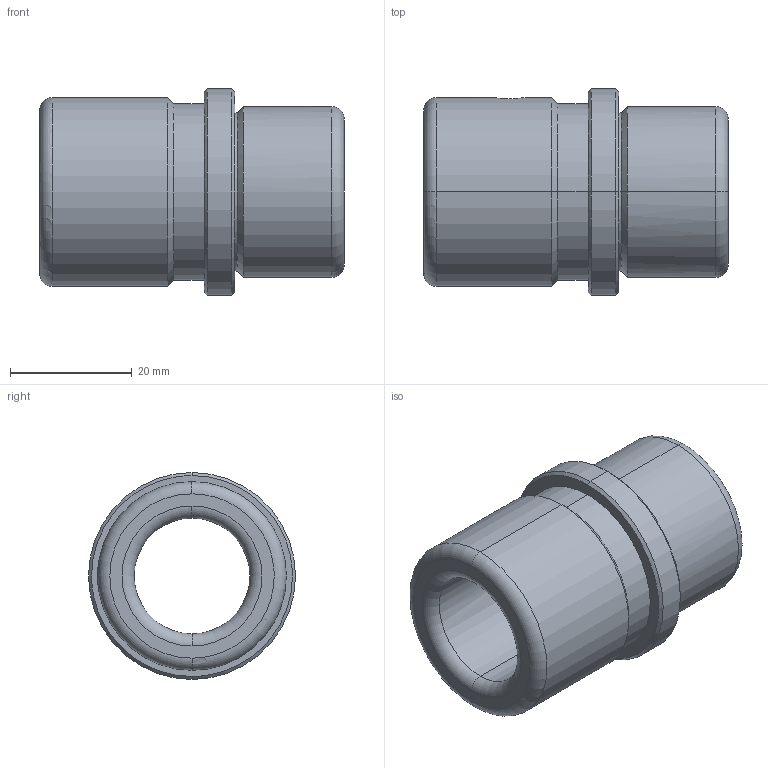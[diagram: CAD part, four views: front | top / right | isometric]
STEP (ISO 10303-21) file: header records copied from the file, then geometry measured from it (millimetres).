
FILE_DESCRIPTION(('CATIA V5 STEP Exchange'),'2;1');
FILE_NAME('C:\Users\Utente\Desktop\IO LAVORO\3D X SITO CF\X SITO\CF 641\CF 641 19 x 50.stp','2020-12-26T14:48:41+00:00',('none'),('none'),'CATIA Version 5 Release 20 GA (IN-10)','CATIA V5 STEP AP203','none');
FILE_SCHEMA(('CONFIG_CONTROL_DESIGN'));
Length unit declared in the file: millimetre
Products named in the file (1): CF 641 19 x 50
Bounding box: 50 x 34 x 34 mm (x, y, z)
Volume: 20657.8 mm3; surface area: 9044.3 mm2
Topology: 1 solids, 1 shells, 37 faces, 117 edges, 85 vertices
Faces by surface type: cylinder 14, cone 10, torus 8, plane 5
Entity records: 1530 total; most frequent: CARTESIAN_POINT 447, ORIENTED_EDGE 234, DIRECTION 178, AXIS2_PLACEMENT_3D 118, EDGE_CURVE 117, VERTEX_POINT 85, CIRCLE 80, EDGE_LOOP 44
